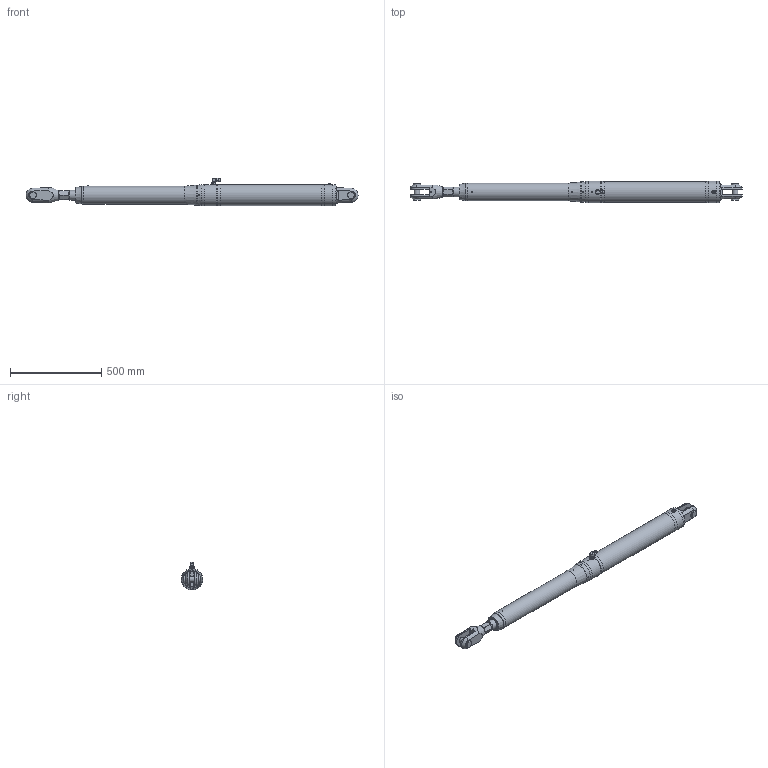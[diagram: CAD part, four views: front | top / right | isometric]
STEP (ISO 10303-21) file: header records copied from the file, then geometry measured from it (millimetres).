
FILE_DESCRIPTION(/* description */ (''),/* implementation_level */ '2;1');
FILE_NAME(/* name */ 'Q:\AA BRAND HYDRAULICS\HYDRAULICS FAMILY DIRECTORY\HYDRAULICS\CYLINDERS\MECHANICAL LOCK RAMS\ALUMINIUM - STAINLESS SINGLE ACTING (-0012 To -0150)\MSA-0060-S0550-NP-71\MSA-0060-S0550-NP-71 (Closed).stp',/* time_stamp */ '2018-04-25T16:42:32+01:00',/* author */ ('Lorena'),/* organization */ (''),/* preprocessor_version */ 'ST-DEVELOPER v17',/* originating_system */ 'Autodesk Inventor 2018',/* authorisation */ '');
FILE_SCHEMA (('AUTOMOTIVE_DESIGN { 1 0 10303 214 3 1 1 }'));
Length unit declared in the file: millimetre
Products named in the file (1): MSA-0060-S0550-NP-71 (Closed)
Bounding box: 1824.15 x 117.4 x 152.95 mm (x, y, z)
Volume: 14304758.5 mm3; surface area: 642866.8 mm2
Topology: 2 solids, 4 shells, 493 faces, 1293 edges, 842 vertices
Faces by surface type: plane 279, cone 124, cylinder 76, torus 6, bspline 4, sphere 4
Full cylindrical faces by diameter (mm): 4 x1, 4.134 x1, 4.2 x2, 5 x2, 6 x4, 7 x1, 7.5 x1, 8.1 x1, 9 x1, 10 x2, 14 x1, 14.35 x1, 14.662 x1, 15 x2, 15.662 x1, 16.662 x2, 18 x2, 20 x2, 21.4 x3, 25 x1, 31.75 x2, 34.25 x1, 39.688 x2, 53 x2, 54 x2, 57 x1, 98 x1, 114.4 x1, 117.4 x4
Entity records: 16694 total; most frequent: CARTESIAN_POINT 4179, ORIENTED_EDGE 2566, DIRECTION 2496, EDGE_CURVE 1283, AXIS2_PLACEMENT_3D 958, VERTEX_POINT 842, LINE 580, VECTOR 580
